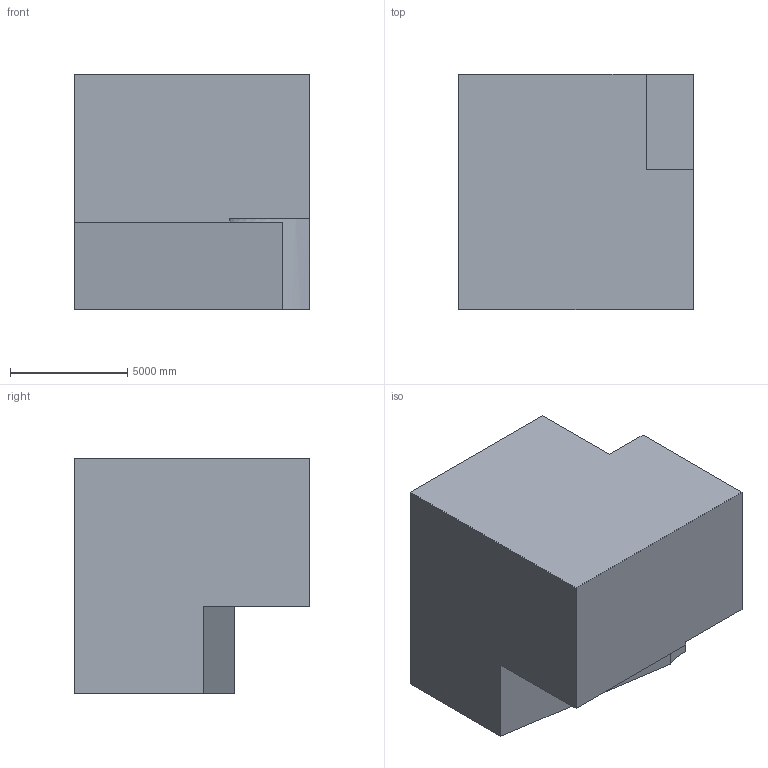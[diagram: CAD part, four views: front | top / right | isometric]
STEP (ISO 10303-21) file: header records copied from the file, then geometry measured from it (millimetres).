
FILE_DESCRIPTION (( 'STEP AP203' ), '1' );
FILE_NAME ('1253.STEP', '2022-08-18T13:24:27', ( 'user' ), ( '' ), 'SwSTEP 2.0', 'SolidWorks 2021', '' );
FILE_SCHEMA (( 'CONFIG_CONTROL_DESIGN' ));
Length unit declared in the file: centimetre
Products named in the file (1): 1253
Bounding box: 10000 x 10000 x 10000 mm (x, y, z)
Volume: 812821158253.4 mm3; surface area: 570781217.5 mm2
Topology: 1 solids, 1 shells, 13 faces, 33 edges, 22 vertices
Faces by surface type: plane 12, cylinder 1
Entity records: 467 total; most frequent: CARTESIAN_POINT 69, ORIENTED_EDGE 66, DIRECTION 64, EDGE_CURVE 33, VECTOR 30, LINE 30, VERTEX_POINT 22, AXIS2_PLACEMENT_3D 17
